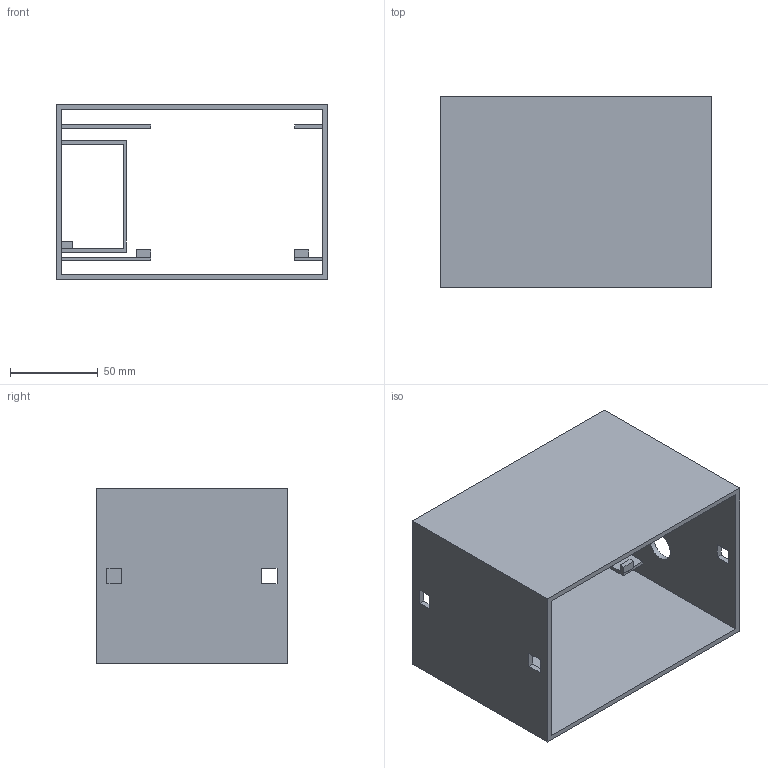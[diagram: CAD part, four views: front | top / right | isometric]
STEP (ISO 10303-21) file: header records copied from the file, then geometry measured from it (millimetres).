
FILE_DESCRIPTION(('Open CASCADE Model'),'2;1');
FILE_NAME('Open CASCADE Shape Model','2026-11-05T11:12:39',('Author'),( 'Open CASCADE'),'Open CASCADE STEP processor 7.8','Open CASCADE 7.8' ,'Unknown');
FILE_SCHEMA(('AUTOMOTIVE_DESIGN { 1 0 10303 214 1 1 1 1 }'));
Length unit declared in the file: millimetre
Products named in the file (1): Open CASCADE STEP translator 7.8 2
Bounding box: 155 x 109 x 100 mm (x, y, z)
Volume: 175646.4 mm3; surface area: 127267.9 mm2
Topology: 1 solids, 1 shells, 72 faces, 195 edges, 130 vertices
Faces by surface type: plane 71, cylinder 1
Full cylindrical faces by diameter (mm): 16 x1
Entity records: 4638 total; most frequent: CARTESIAN_POINT 944, DIRECTION 577, LINE 425, VECTOR 425, ORIENTED_EDGE 390, PCURVE 390, DEFINITIONAL_REPRESENTATION 390, EDGE_CURVE 195
